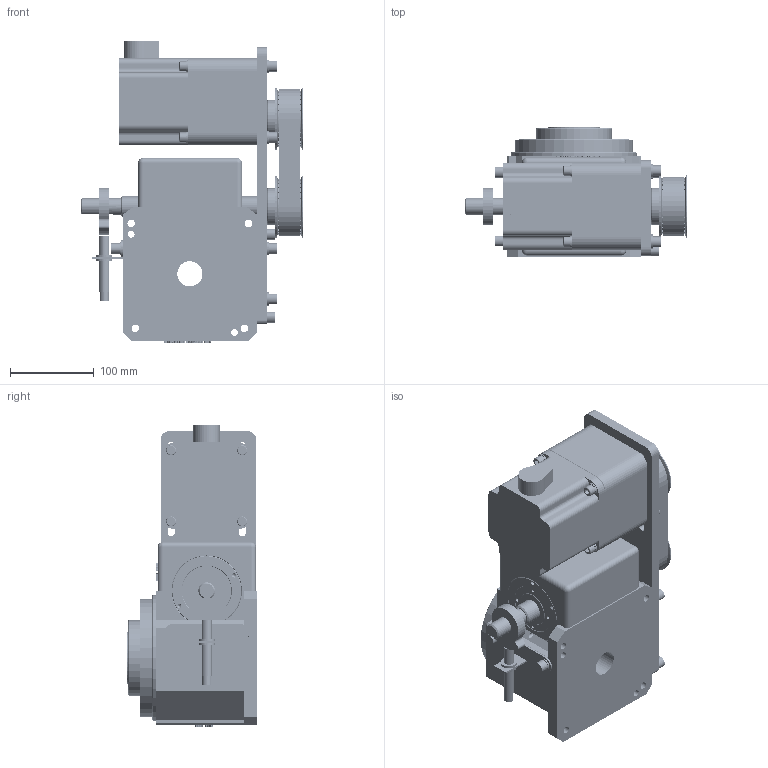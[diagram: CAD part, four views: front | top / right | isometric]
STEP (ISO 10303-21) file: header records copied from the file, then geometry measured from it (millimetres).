
FILE_DESCRIPTION (( 'STEP AP214' ), '1' );
FILE_NAME ('ER-RU80DT英锐凸轮分割器固定盘壳体法兰面销孔3D水平带轮式右侧前方ZDWS(电话15062628977)AA.STEP', '2022-07-06T05:26:15', ( '微软用户' ), ( '微软中国' ), 'SwSTEP 2.0', 'SolidWorks 2017', '' );
FILE_SCHEMA (( 'AUTOMOTIVE_DESIGN' ));
Length unit declared in the file: millimetre
Products named in the file (1): ER-RU80DT英锐凸轮分割器固定盘壳体法兰面销孔3D水平带轮式右侧前方ZDWS(电话15062628977)AA
Bounding box: 265 x 155 x 359 mm (x, y, z)
Volume: 6207560.2 mm3; surface area: 448577.9 mm2
Topology: 5 solids, 13 shells, 2483 faces, 6364 edges, 4052 vertices
Faces by surface type: cylinder 997, plane 925, bspline 359, cone 183, torus 15, sphere 4
Entity records: 162270 total; most frequent: CARTESIAN_POINT 84759, ORIENTED_EDGE 12606, DIRECTION 9599, EDGE_CURVE 6303, VERTEX_POINT 4052, AXIS2_PLACEMENT_3D 3213, VECTOR 3173, LINE 3173
